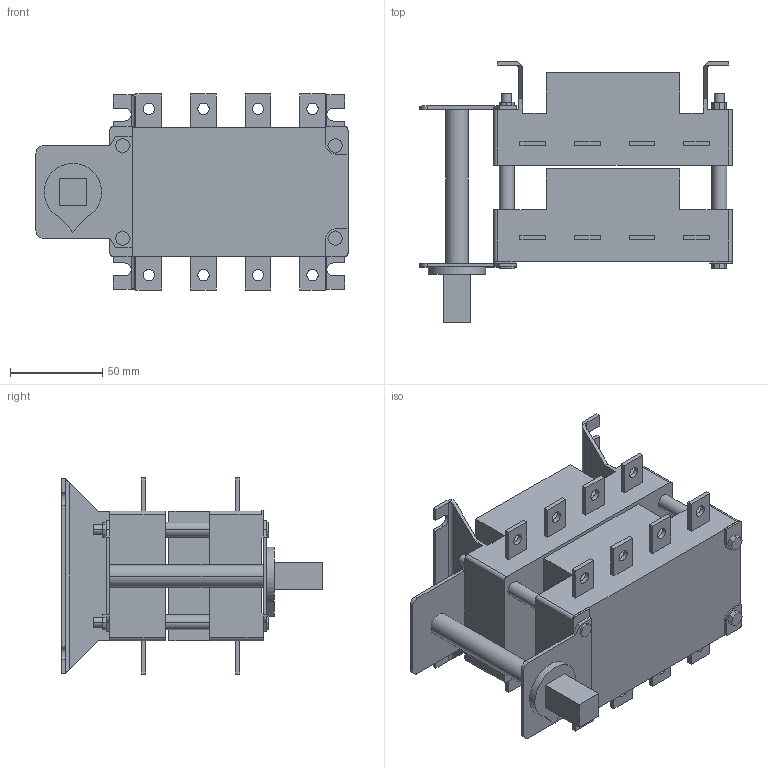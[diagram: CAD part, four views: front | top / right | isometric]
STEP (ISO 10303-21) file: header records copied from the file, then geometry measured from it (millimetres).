
FILE_DESCRIPTION((''),'2;1');
FILE_NAME('NH40-32-4CS','2018-05-16T',('zhuanghy'),(''),'PRO/ENGINEER BY PARAMETRIC TECHNOLOGY CORPORATION, 2008380','PRO/ENGINEER BY PARAMETRIC TECHNOLOGY CORPORATION, 2008380','');
FILE_SCHEMA(('CONFIG_CONTROL_DESIGN'));
Length unit declared in the file: millimetre
Products named in the file (1): NH40-32-4CS
Bounding box: 168.76 x 141 x 106 mm (x, y, z)
Volume: 785979.6 mm3; surface area: 116282.8 mm2
Topology: 1 solids, 6 shells, 355 faces, 928 edges, 615 vertices
Faces by surface type: plane 260, cylinder 95
Entity records: 10990 total; most frequent: CARTESIAN_POINT 1936, ORIENTED_EDGE 1856, DIRECTION 1816, EDGE_CURVE 928, VECTOR 734, LINE 734, VERTEX_POINT 615, AXIS2_PLACEMENT_3D 541
